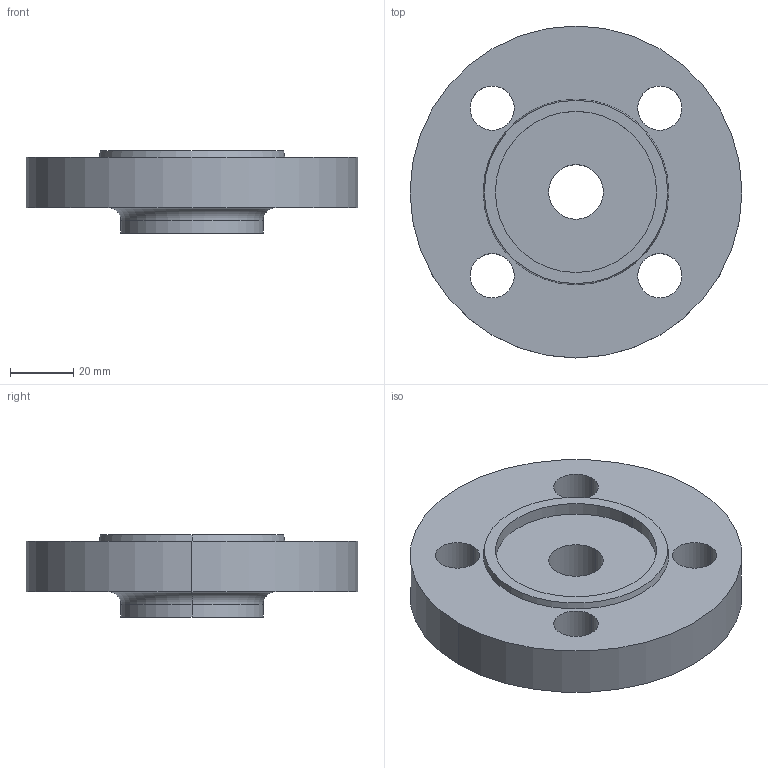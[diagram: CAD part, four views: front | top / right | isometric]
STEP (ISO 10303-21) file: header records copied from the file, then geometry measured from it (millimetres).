
FILE_DESCRIPTION (( 'STEP AP214' ), '1' );
FILE_NAME ('PN40 DN20 Type 13 - Type F Face.STEP', '2018-12-30T04:08:55', ( '' ), ( '' ), 'SwSTEP 2.0', 'SolidWorks 2019', '' );
FILE_SCHEMA (( 'AUTOMOTIVE_DESIGN' ));
Length unit declared in the file: millimetre
Products named in the file (1): PN40 DN20 Type 13 - Type F Face
Bounding box: 105 x 105 x 26 mm (x, y, z)
Volume: 133930 mm3; surface area: 26748.7 mm2
Topology: 1 solids, 1 shells, 25 faces, 58 edges, 38 vertices
Faces by surface type: cylinder 16, plane 5, torus 2, cone 2
Entity records: 790 total; most frequent: DIRECTION 150, CARTESIAN_POINT 122, ORIENTED_EDGE 116, AXIS2_PLACEMENT_3D 66, EDGE_CURVE 58, CIRCLE 40, VERTEX_POINT 38, EDGE_LOOP 38
